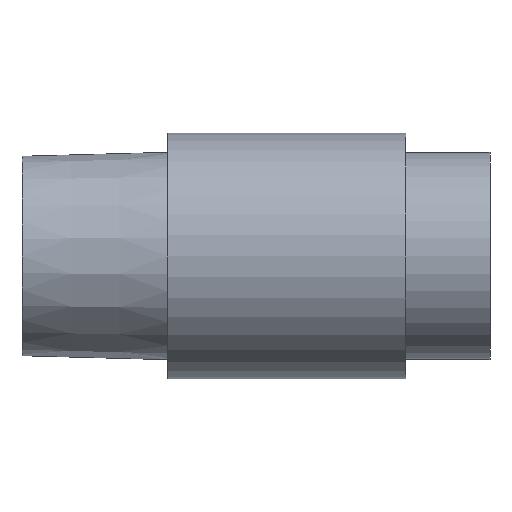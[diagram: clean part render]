
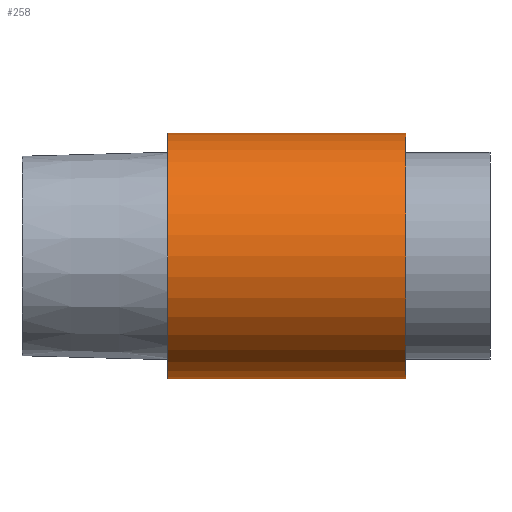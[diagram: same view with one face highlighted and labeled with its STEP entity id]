
A CAD part, left-side view. The second image highlights one B-rep face of the part: STEP entity #258.
In plain terms, the highlighted cylindrical face has radius 16 mm (diameter 32 mm), a partial arc.
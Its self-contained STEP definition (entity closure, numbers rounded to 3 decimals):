
#2 = CARTESIAN_POINT ( 'NONE',  ( 0., 11., 0. ) ) ;
#24 = CARTESIAN_POINT ( 'NONE',  ( 0., 11., -16. ) ) ;
#54 = VERTEX_POINT ( 'NONE', #335 ) ;
#69 = DIRECTION ( 'NONE',  ( 0., -1., 0. ) ) ;
#116 = VERTEX_POINT ( 'NONE', #390 ) ;
#136 = VERTEX_POINT ( 'NONE', #430 ) ;
#138 = VECTOR ( 'NONE', #69, 1000. ) ;
#165 = ORIENTED_EDGE ( 'NONE', *, *, #422, .F. ) ;
#201 = DIRECTION ( 'NONE',  ( 0., -1., 0. ) ) ;
#225 = FACE_OUTER_BOUND ( 'NONE', #428, .T. ) ;
#238 = ORIENTED_EDGE ( 'NONE', *, *, #326, .T. ) ;
#258 = ADVANCED_FACE ( 'NONE', ( #225 ), #472, .T. ) ;
#262 = DIRECTION ( 'NONE',  ( 0., -1., 0. ) ) ;
#263 = CARTESIAN_POINT ( 'NONE',  ( 0., 0., 0. ) ) ;
#287 = EDGE_CURVE ( 'NONE', #54, #116, #446, .T. ) ;
#291 = ORIENTED_EDGE ( 'NONE', *, *, #287, .F. ) ;
#324 = DIRECTION ( 'NONE',  ( 0., 0., -1. ) ) ;
#326 = EDGE_CURVE ( 'NONE', #54, #136, #517, .T. ) ;
#327 = ORIENTED_EDGE ( 'NONE', *, *, #379, .T. ) ;
#335 = CARTESIAN_POINT ( 'NONE',  ( 0., 42., 16. ) ) ;
#351 = VECTOR ( 'NONE', #480, 1000. ) ;
#357 = VERTEX_POINT ( 'NONE', #24 ) ;
#358 = CARTESIAN_POINT ( 'NONE',  ( 0., 0., -16. ) ) ;
#379 = EDGE_CURVE ( 'NONE', #136, #357, #444, .T. ) ;
#390 = CARTESIAN_POINT ( 'NONE',  ( 0., 11., 16. ) ) ;
#412 = DIRECTION ( 'NONE',  ( 0., 0., -1. ) ) ;
#422 = EDGE_CURVE ( 'NONE', #116, #357, #469, .T. ) ;
#428 = EDGE_LOOP ( 'NONE', ( #291, #238, #327, #165 ) ) ;
#430 = CARTESIAN_POINT ( 'NONE',  ( 0., 42., -16. ) ) ;
#433 = DIRECTION ( 'NONE',  ( 0., -1., 0. ) ) ;
#444 = LINE ( 'NONE', #358, #138 ) ;
#446 = LINE ( 'NONE', #527, #351 ) ;
#469 = CIRCLE ( 'NONE', #530, 16. ) ;
#472 = CYLINDRICAL_SURFACE ( 'NONE', #516, 16. ) ;
#480 = DIRECTION ( 'NONE',  ( 0., -1., 0. ) ) ;
#483 = CARTESIAN_POINT ( 'NONE',  ( 0., 42., 0. ) ) ;
#498 = DIRECTION ( 'NONE',  ( 0., 0., -1. ) ) ;
#516 = AXIS2_PLACEMENT_3D ( 'NONE', #263, #433, #412 ) ;
#517 = CIRCLE ( 'NONE', #536, 16. ) ;
#527 = CARTESIAN_POINT ( 'NONE',  ( 0., 0., 16. ) ) ;
#530 = AXIS2_PLACEMENT_3D ( 'NONE', #2, #262, #498 ) ;
#536 = AXIS2_PLACEMENT_3D ( 'NONE', #483, #201, #324 ) ;
